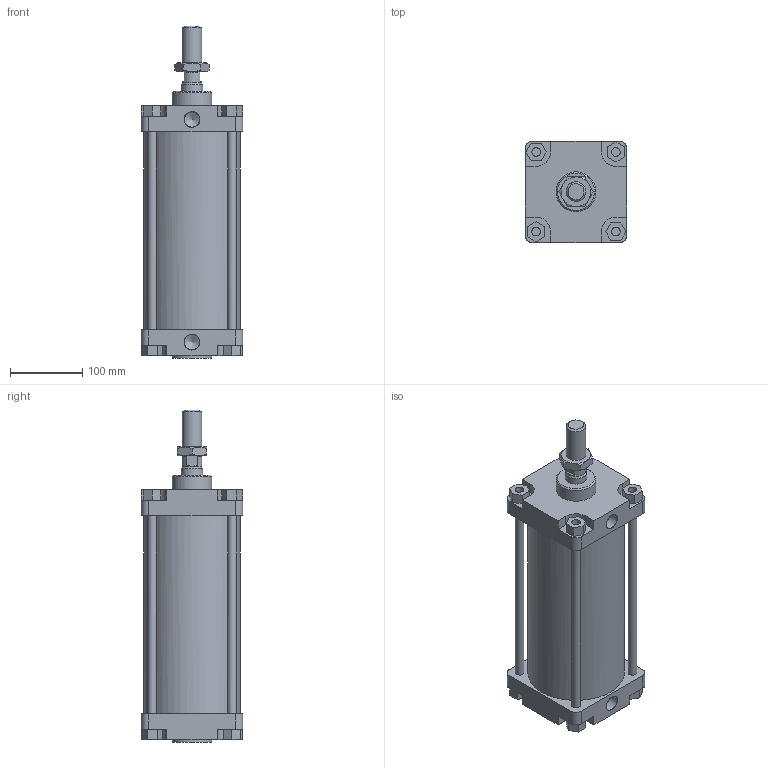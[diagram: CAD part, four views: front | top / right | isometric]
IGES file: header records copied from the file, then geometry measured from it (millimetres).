
Global section: file name: 1303_125_0200_01A; native system: Autodesk Inventor 2014; preprocessor: unknown; author: A. Manieri; date: 20161124.141524; units: millimetre
Bounding box: 140 x 140 x 458 mm (x, y, z)
Volume: 3009822.3 mm3; surface area: 501446.3 mm2
Topology: 9 solids, 9 shells, 175 faces, 440 edges, 295 vertices
Faces by surface type: bspline 175
